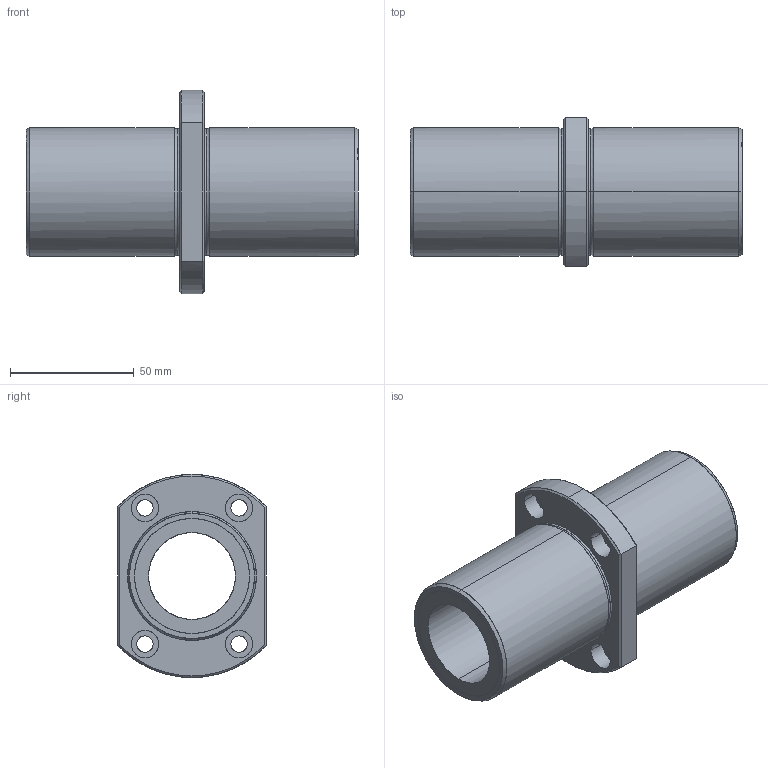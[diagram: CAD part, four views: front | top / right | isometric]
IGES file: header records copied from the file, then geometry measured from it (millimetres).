
Global section: file name: No Iges File Name specified; native system: AutoDesk Inventor R10; preprocessor: AutoDesk Inventor Iges Exporter R10; author: No Author specified; organization: No Organization specified; date: 20101211.160056; units: millimetre
Bounding box: 134 x 60 x 82 mm (x, y, z)
Surface area: 45068.8 mm2 (no closed solid volume)
Topology: 0 solids, 0 shells, 66 faces, 416 edges, 416 vertices
Faces by surface type: bspline 66
